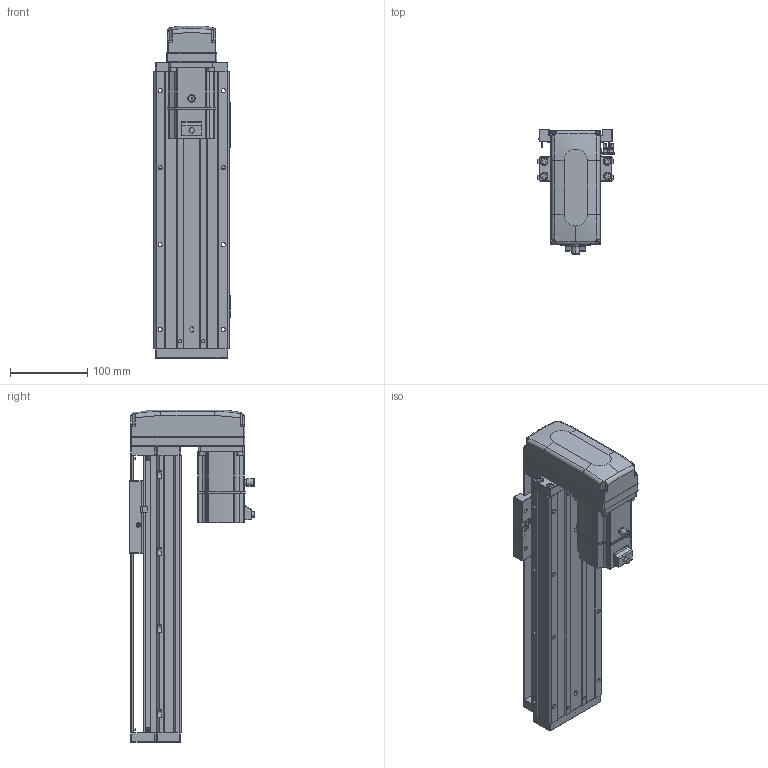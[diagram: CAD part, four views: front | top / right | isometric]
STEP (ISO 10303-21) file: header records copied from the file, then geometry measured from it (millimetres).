
FILE_DESCRIPTION (( 'STEP AP203' ), '1' );
FILE_NAME ('KTHA100-200-BM-M20-C4L.step', '2022-04-26T01:52:21', ( '微软用户' ), ( '微软中国' ), 'SwSTEP 2.0', 'SolidWorks 2020', '' );
FILE_SCHEMA (( 'CONFIG_CONTROL_DESIGN' ));
Length unit declared in the file: millimetre
Products named in the file (17): GBT77-2000 M3×3; CTHA86-033; KTHA100-004; GBT 70.1-M3℅6; KTHA100-200-BM-M20-C4L; KTHA100-005; GBT70.1 M5℅16; GB¨uT 70.2-M3¡Á5_M3¡Á6; CTHA60-016; EE_SX911P_R; GBT 70.3-M3℅6; CTHA60-017; _X2_4E0983F1_X0_200W_1; KTHA100-001_360; KTHA100-002; CTHA60-021; CTHA86-015-1_CTHA86-015-2
Assembly tree (57 placements, depth 2):
  KTHA100-200-BM-M20-C4L
    KTHA100-001_360
    KTHA100-002
    KTHA100-004
    KTHA100-005
    GB¨uT 70.2-M3¡Á5_M3¡Á6  x6
    EE_SX911P_R  x3
    CTHA60-017  x3
    CTHA60-021  x2
    GBT77-2000 M3×3  x6
    GBT 70.1-M3℅6  x10
    GBT70.1 M5℅16  x14
    CTHA60-016  x2
    GBT 70.3-M3℅6  x4
    _X2_4E0983F1_X0_200W_1
    CTHA86-015-1_CTHA86-015-2
    CTHA86-033
Bounding box: 98.82 x 163.2 x 431 mm (x, y, z)
Volume: 2269463.6 mm3; surface area: 379602.3 mm2
Topology: 60 solids, 60 shells, 2357 faces, 5609 edges, 3472 vertices
Faces by surface type: plane 1196, cylinder 653, cone 301, torus 116, bspline 75, sphere 16
Entity records: 39364 total; most frequent: CARTESIAN_POINT 8000, DIRECTION 6052, ORIENTED_EDGE 5830, EDGE_CURVE 2915, AXIS2_PLACEMENT_3D 2132, VERTEX_POINT 1832, LINE 1788, VECTOR 1788
